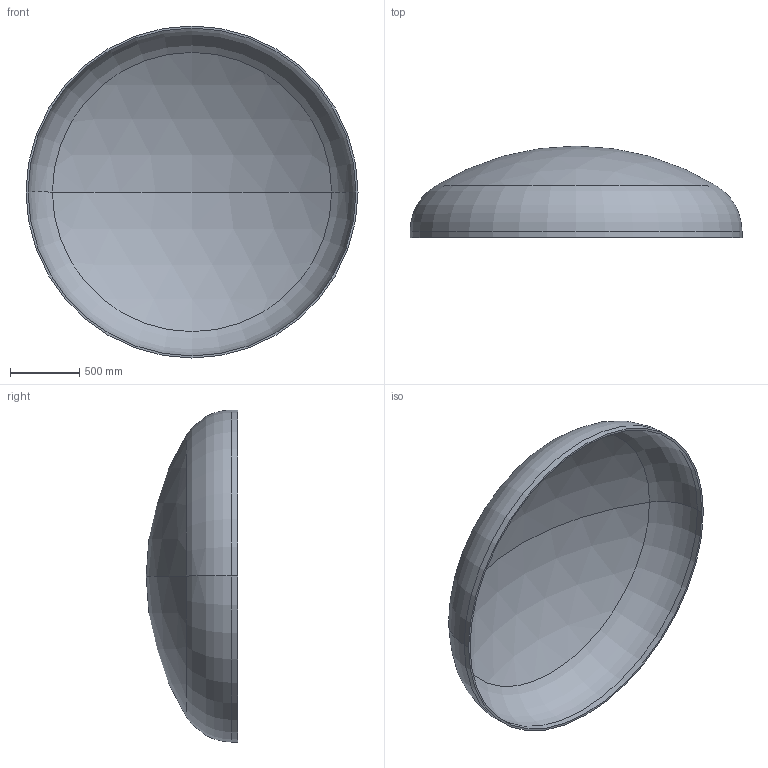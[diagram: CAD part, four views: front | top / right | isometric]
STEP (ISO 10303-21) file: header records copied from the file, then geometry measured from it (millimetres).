
FILE_DESCRIPTION (( 'STEP AP203' ), '1' );
FILE_NAME ('DIN 28013 Korbbogenform_-_Boden DIN 28013 - 2400 x 45 - I - s=15.step', '2016-07-01T15:06:56', ( '' ), ( '' ), 'SwSTEP 2.0', 'SolidWorks 2013', '' );
FILE_SCHEMA (( 'CONFIG_CONTROL_DESIGN' ));
Length unit declared in the file: millimetre
Products named in the file (1): DIN 28013 Korbbogenform_-_Boden DIN 28013 - 2400 x 45 - I - s=15
Bounding box: 2400 x 661.56 x 2400 mm (x, y, z)
Volume: 98288603 mm3; surface area: 13218003.7 mm2
Topology: 1 solids, 1 shells, 13 faces, 24 edges, 14 vertices
Faces by surface type: torus 4, cylinder 4, sphere 4, plane 1
Entity records: 407 total; most frequent: DIRECTION 72, CARTESIAN_POINT 52, ORIENTED_EDGE 48, AXIS2_PLACEMENT_3D 34, EDGE_CURVE 24, CIRCLE 20, VERTEX_POINT 14, EDGE_LOOP 14
